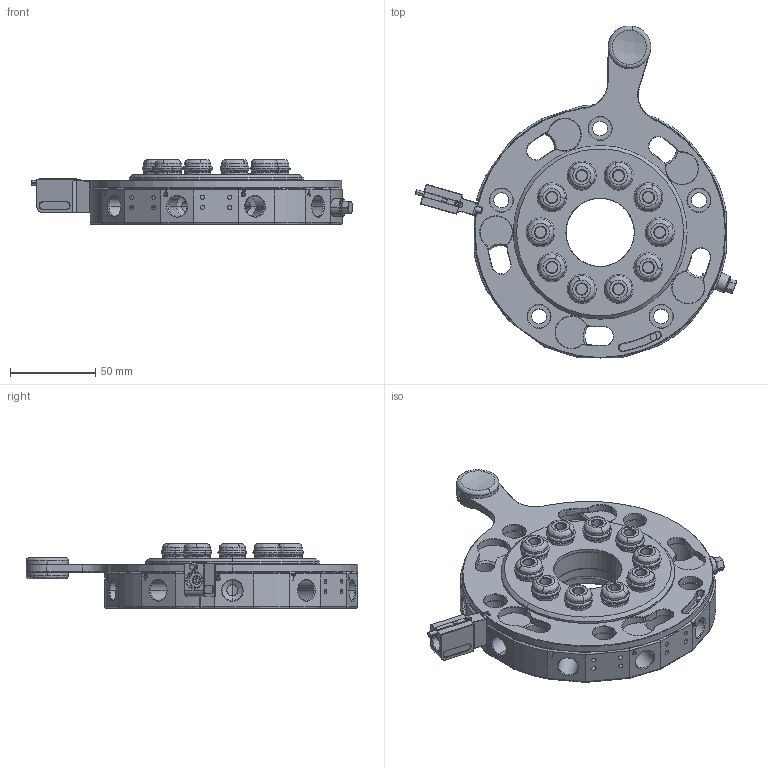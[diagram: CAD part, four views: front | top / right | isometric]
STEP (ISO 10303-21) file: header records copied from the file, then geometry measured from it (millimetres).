
FILE_DESCRIPTION (( 'STEP AP203' ), '1' );
FILE_NAME ('QC-R150K.STEP', '2024-05-07T08:13:41', ( '微软用户' ), ( '微软中国' ), 'SwSTEP 2.0', 'SolidWorks 2018', '' );
FILE_SCHEMA (( 'CONFIG_CONTROL_DESIGN' ));
Length unit declared in the file: millimetre
Products named in the file (5): 机械手侧卡盘手捏-A; QC150-儂迮忒耜菁釱; QC-R150K; QC-R160K.sldasm-Part-1
Assembly tree (4 placements, depth 3):
  QC-R150K
    QC-R150K
      机械手侧卡盘手捏-A
      QC150-儂迮忒耜菁釱
    QC-R160K.sldasm-Part-1
Bounding box: 188.65 x 194.9 x 38.1 mm (x, y, z)
Volume: 369234.3 mm3; surface area: 113605.4 mm2
Topology: 3 solids, 50 shells, 1826 faces, 4542 edges, 2856 vertices
Faces by surface type: cylinder 568, cone 490, plane 463, bspline 284, torus 20, sphere 1
Entity records: 84752 total; most frequent: CARTESIAN_POINT 42967, ORIENTED_EDGE 8996, DIRECTION 8010, EDGE_CURVE 4498, AXIS2_PLACEMENT_3D 3140, VERTEX_POINT 2854, EDGE_LOOP 2052, ADVANCED_FACE 1826
